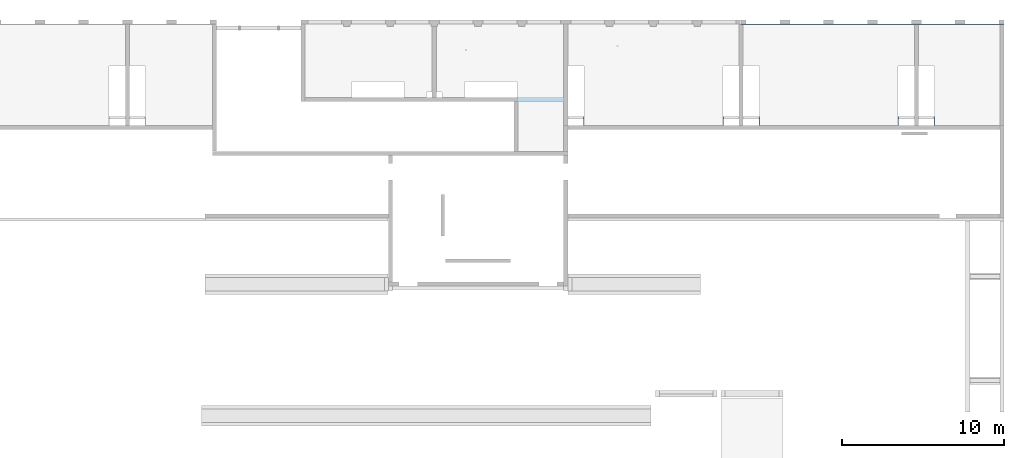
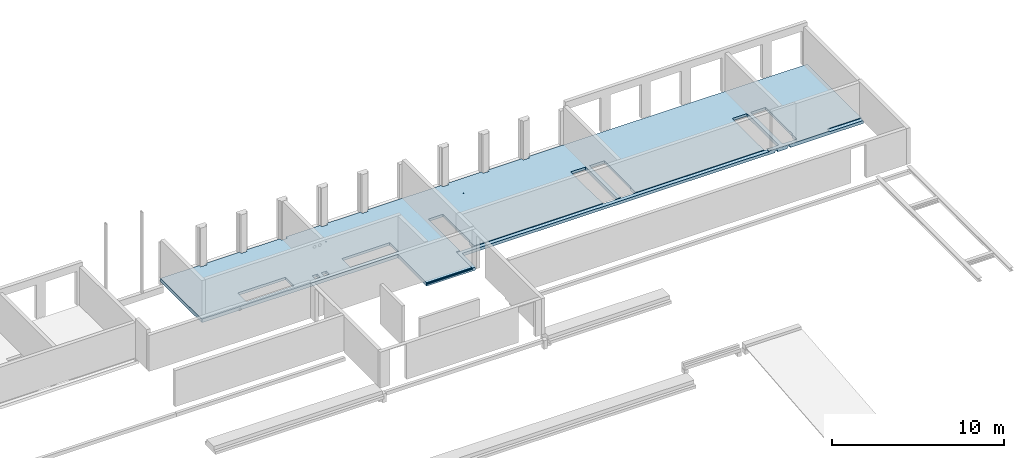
# One storey, part 17 of 18: 1 slab.
"""IFC2X3 building model written with IfcOpenShell, lengths in millimetres."""

from ifc_helpers import new_model, entity, si_unit, converted_unit, derived_unit, direction, frame, origin, place, context, subcontext, project, spatial, faceted_brep, element, save


model = new_model("IFC2X3")

# Units and contexts
model_context = context("Model", 3, precision=0.01, world=origin(), true_north=direction((6.12303176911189e-17, 1.0)))
body_context = subcontext(model_context, "Body", "Model", "MODEL_VIEW")
ifc_project = project(units=[si_unit("LENGTHUNIT", "METRE", prefix="MILLI"), si_unit("AREAUNIT", "SQUARE_METRE"), si_unit("VOLUMEUNIT", "CUBIC_METRE"), converted_unit("PLANEANGLEUNIT", "DEGREE", entity("IfcRatioMeasure", 0.0174532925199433), si_unit("PLANEANGLEUNIT", "RADIAN"), dimensions=[0, 0, 0, 0, 0, 0, 0]), si_unit("MASSUNIT", "GRAM", prefix="KILO"), derived_unit("MASSDENSITYUNIT", [(si_unit("MASSUNIT", "GRAM", prefix="KILO"), 1), (si_unit("LENGTHUNIT", "METRE"), -3)]), si_unit("TIMEUNIT", "SECOND"), si_unit("FREQUENCYUNIT", "HERTZ"), si_unit("THERMODYNAMICTEMPERATUREUNIT", "DEGREE_CELSIUS"), derived_unit("THERMALTRANSMITTANCEUNIT", [(si_unit("MASSUNIT", "GRAM", prefix="KILO"), 1), (si_unit("THERMODYNAMICTEMPERATUREUNIT", "KELVIN"), -1), (si_unit("TIMEUNIT", "SECOND"), -3)]), derived_unit("VOLUMETRICFLOWRATEUNIT", [(si_unit("LENGTHUNIT", "METRE"), 3), (si_unit("TIMEUNIT", "SECOND"), -1)]), si_unit("ELECTRICCURRENTUNIT", "AMPERE"), si_unit("ELECTRICVOLTAGEUNIT", "VOLT"), si_unit("POWERUNIT", "WATT"), si_unit("FORCEUNIT", "NEWTON", prefix="KILO"), si_unit("ILLUMINANCEUNIT", "LUX"), si_unit("LUMINOUSFLUXUNIT", "LUMEN"), si_unit("LUMINOUSINTENSITYUNIT", "CANDELA"), derived_unit("USERDEFINED", [(si_unit("MASSUNIT", "GRAM", prefix="KILO"), -1), (si_unit("LENGTHUNIT", "METRE"), -2), (si_unit("TIMEUNIT", "SECOND"), 3), (si_unit("LUMINOUSFLUXUNIT", "LUMEN"), 1)]), derived_unit("LINEARVELOCITYUNIT", [(si_unit("LENGTHUNIT", "METRE"), 1), (si_unit("TIMEUNIT", "SECOND"), -1)]), si_unit("PRESSUREUNIT", "PASCAL"), derived_unit("USERDEFINED", [(si_unit("LENGTHUNIT", "METRE"), -2), (si_unit("MASSUNIT", "GRAM", prefix="KILO"), 1), (si_unit("TIMEUNIT", "SECOND"), -2)])], contexts=[model_context])

# Site, building, storey
site_placement = place(None, origin())
site = spatial("IfcSite", under=ifc_project, at=site_placement, Name="Default", CompositionType="ELEMENT")
building_placement = place(site_placement, origin())
building = spatial("IfcBuilding", under=site, at=building_placement, Name="niet gebruiken", CompositionType="ELEMENT")
storey_placement = place(building_placement, frame((0.0, 0.0, 3690.0)))
storey = spatial("IfcBuildingStorey", under=building, at=storey_placement, Name="01 eerste verdieping", CompositionType="ELEMENT", Elevation=3690.00000000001)

# Slab
slab_placement = place(storey_placement, origin())
element("IfcSlab", 1, at=slab_placement, inside=storey, Name="Floor:NLRS_23.21_FL_breedplaat d=70/250_schil apart_gen", ObjectType="Floor:NLRS_23.21_FL_breedplaat d=70/250_schil apart_gen", PredefinedType="FLOOR", context=body_context, shape_type="Brep", body=[
    faceted_brep([(94705.0, 52846.0, -270.0), (94705.0, 53006.0, -270.0), (97095.0, 53006.0, -270.0), (94205.0, 49476.0, -270.0), (94295.0, 52846.0, -270.0), (97095.0, 48456.0, -270.0), (94205.0, 48476.0, -270.0), (94205.0, 48456.0, -270.0), (92005.0, 52846.0, -270.0), (91087.4999999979, 51406.0, -270.0), (91082.8124999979, 51397.8810118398, -270.0), (91078.1249999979, 51389.7620236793, -270.0), (91073.4374999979, 51381.6430355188, -270.0), (91068.7499999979, 51373.5240473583, -270.0), (91005.0, 49476.0, -270.0), (91059.3749999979, 51373.5240473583, -270.0), (91050.0, 51373.5240473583, -270.0), (91040.6249999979, 51373.5240473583, -270.0), (91031.2499999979, 51373.5240473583, -270.0), (89575.0, 48826.0, -270.0), (91005.0, 48476.0, -270.0), (89575.0, 48476.0, -270.0), (91005.0, 48456.0, -270.0), (89575.0, 48456.0, -270.0), (91025.5871936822, 51383.3323156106, -270.0), (91019.9243873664, 51393.1405838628, -270.0), (91016.2121936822, 51399.5702919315, -270.0), (91012.4999999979, 51406.0, -270.0), (89225.0, 48826.0, -270.0), (89205.0, 48826.0, -270.0), (89205.0, 52846.0, -270.0), (89305.0, 52846.0, -270.0), (91017.1874999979, 51414.1189881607, -270.0), (91021.8749999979, 51422.2379763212, -270.0), (91026.5624999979, 51430.3569644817, -270.0), (91031.2499999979, 51438.4759526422, -270.0), (91595.0, 52846.0, -270.0), (91595.0, 53006.0, -270.0), (89305.0, 53006.0, -270.0), (91068.7499999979, 51438.4759526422, -270.0), (91059.3749999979, 51438.4759526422, -270.0), (91050.0, 51438.4759526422, -270.0), (91040.6249999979, 51438.4759526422, -270.0), (91083.7878062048, 51412.4297082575, -270.0), (91080.0756124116, 51418.8594165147, -270.0), (91074.4128062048, 51428.6676845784, -270.0), (94295.0, 53006.0, -270.0), (92005.0, 53006.0, -270.0), (109125.0, 47326.0, -270.0), (109125.0, 50426.0, -270.0), (108125.0, 50426.0, -270.0), (108105.0, 50426.0, -270.0), (108105.0, 52986.0, -270.0), (118695.0, 52986.0, -270.0), (118695.0, 50426.0, -270.0), (118675.0, 50426.0, -270.0), (117675.0, 50426.0, -270.0), (117675.0, 47326.0, -270.0), (117675.0, 46726.0, -270.0), (109125.0, 46726.0, -270.0), (87225.0, 48456.0, -270.0), (87225.0, 48476.0, -270.0), (87225.0, 49476.0, -270.0), (84025.0, 49476.0, -270.0), (84025.0, 48476.0, -270.0), (84025.0, 48456.0, -270.0), (81130.0, 48456.0, -270.0), (81130.0, 53006.0, -270.0), (83495.0, 53006.0, -270.0), (83495.0, 52846.0, -270.0), (83905.0, 52846.0, -270.0), (83905.0, 53006.0, -270.0), (86195.0, 53006.0, -270.0), (86195.0, 52846.0, -270.0), (86605.0, 52846.0, -270.0), (86605.0, 53006.0, -270.0), (88895.0, 53006.0, -270.0), (88895.0, 52846.0, -270.0), (88995.0, 52846.0, -270.0), (88995.0, 48826.0, -270.0), (88975.0, 48826.0, -270.0), (88625.0, 48826.0, -270.0), (88625.0, 48476.0, -270.0), (88625.0, 48456.0, -270.0), (94255.0, 45136.0, -270.0), (94255.0, 48246.0, -270.0), (97095.0, 48246.0, -270.0), (97095.0, 45136.0, -270.0), (100418.749999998, 51623.5240473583, -270.0), (106875.0, 50426.0, -270.0), (106875.0, 47326.0, -270.0), (102805.0, 52845.5786066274, -270.0), (102395.0, 52845.5786066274, -270.0), (100423.437499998, 51631.6430355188, -270.0), (98325.0, 47326.0, -270.0), (98325.0, 50426.0, -270.0), (100409.374999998, 51623.5240473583, -270.0), (100428.124999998, 51639.7620236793, -270.0), (100432.812499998, 51647.8810118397, -270.0), (100437.499999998, 51656.0, -270.0), (100433.787806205, 51662.4297082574, -270.0), (100430.075612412, 51668.8594165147, -270.0), (100424.412806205, 51678.6676845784, -270.0), (100418.749999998, 51688.4759526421, -270.0), (100105.0, 52845.5786066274, -270.0), (100409.374999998, 51688.4759526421, -270.0), (100400.0, 51688.4759526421, -270.0), (100390.624999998, 51688.4759526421, -270.0), (100381.249999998, 51688.4759526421, -270.0), (99695.0, 52845.5786066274, -270.0), (100376.562499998, 51680.3569644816, -270.0), (100371.874999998, 51672.2379763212, -270.0), (100367.187499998, 51664.1189881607, -270.0), (100362.499999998, 51656.0, -270.0), (100366.212193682, 51649.5702919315, -270.0), (100369.924387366, 51643.1405838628, -270.0), (100375.587193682, 51633.3323156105, -270.0), (100381.249999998, 51623.5240473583, -270.0), (100390.624999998, 51623.5240473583, -270.0), (100400.0, 51623.5240473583, -270.0), (97305.0, 53006.0, -270.0), (99695.0, 52846.0, -270.0), (102395.0, 52846.0, -270.0), (100105.0, 52846.0, -270.0), (102395.0, 53005.5786066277, -270.0), (100105.0, 53005.5786066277, -270.0), (105095.0, 52845.5786066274, -270.0), (102805.0, 52846.0, -270.0), (105095.0, 52846.0, -270.0), (102805.0, 53005.5786066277, -270.0), (105095.0, 53005.5786066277, -270.0), (105505.0, 52845.5786066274, -270.0), (107895.0, 53005.5786066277, -270.0), (105505.0, 52846.0, -270.0), (105505.0, 53005.5786066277, -270.0), (107875.0, 50426.0, -270.0), (107895.0, 50426.0, -270.0), (98325.0, 46726.0, -270.0), (106875.0, 46726.0, -270.0), (97325.0, 50426.0, -270.0), (97305.0, 50426.0, -270.0), (99695.0, 53006.0, -270.0), (119925.0, 47326.0, -270.0), (119925.0, 50426.0, -270.0), (118925.0, 50426.0, -270.0), (118905.0, 50426.0, -270.0), (118905.0, 52986.0, -270.0), (123970.0, 52986.0, -270.0), (123970.0, 46726.0, -270.0), (119925.0, 46726.0, -270.0), (107875.0, 46746.0, -130.0), (106905.0, 46746.0, -130.0), (98295.0, 46746.0, -130.0), (97325.0, 46746.0, -130.0), (97075.0, 46746.0, -130.0), (97075.0, 44906.0, -130.0), (97325.0, 44906.0, -130.0), (97325.0, 45156.0, -130.0), (97325.0, 46056.0, -130.0), (97325.0, 46496.0, -130.0), (98325.0, 46496.0, -130.0), (117880.0, 46496.0, -130.0), (117880.0, 46746.0, -130.0), (117705.0, 46746.0, -130.0), (109095.0, 46746.0, -130.0), (108125.0, 46746.0, -130.0), (121930.0, 46746.0, -130.0), (121930.0, 46496.0, -130.0), (124200.0, 46496.0, -130.0), (124200.0, 46746.0, -130.0), (107875.0, 46746.0, -90.0), (108125.0, 46746.0, -90.0), (109095.0, 46746.0, -90.0), (117705.0, 46746.0, -90.0), (98295.0, 46746.0, -90.0), (106905.0, 46746.0, -90.0), (97075.0, 46746.0, -90.0), (97325.0, 46746.0, -90.0), (121930.0, 46746.0, -90.0), (124200.0, 46746.0, -90.0), (118461.602540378, 46496.0, -340.0), (118471.592582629, 46496.0, -315.881904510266), (118471.592582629, 46746.0, -315.881904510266), (118461.602540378, 46746.0, -340.0), (118475.0, 46496.0, -290.0), (118475.0, 46746.0, -290.0), (119311.602540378, 46496.0, -340.0), (119321.592582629, 46496.0, -315.881904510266), (119321.592582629, 46746.0, -315.881904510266), (119311.602540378, 46746.0, -340.0), (119325.0, 46496.0, -290.0), (119325.0, 46746.0, -290.0), (124200.0, 53005.5786066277, -340.0), (123970.0, 52986.0, -340.0), (118905.0, 52986.0, -340.0), (123970.0, 46726.0, -340.0), (118695.0, 52986.0, -340.0), (107895.0, 53005.5786066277, -340.0), (124200.0, 46496.0, -340.0), (123950.0, 46496.0, -340.0), (119925.0, 46726.0, -340.0), (119895.0, 46746.0, -340.0), (119925.0, 47326.0, -340.0), (119895.0, 47326.0, -340.0), (118905.0, 50426.0, -340.0), (118695.0, 50426.0, -340.0), (118675.0, 46746.0, -340.0), (118925.0, 46746.0, -340.0), (118925.0, 50426.0, -340.0), (119138.397459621, 46496.0, -340.0), (119138.397459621, 46746.0, -340.0), (118675.0, 50426.0, -340.0), (108105.0, 52986.0, -340.0), (107895.0, 50426.0, -340.0), (108105.0, 50426.0, -340.0), (107875.0, 46746.0, -340.0), (108125.0, 46746.0, -340.0), (108125.0, 50426.0, -340.0), (109125.0, 46726.0, -340.0), (109095.0, 46746.0, -340.0), (109125.0, 47326.0, -340.0), (109095.0, 47326.0, -340.0), (106875.0, 46726.0, -340.0), (98325.0, 46496.0, -340.0), (118288.397459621, 46496.0, -340.0), (117675.0, 46726.0, -340.0), (117705.0, 46746.0, -340.0), (117705.0, 47146.0, -340.0), (117675.0, 47326.0, -340.0), (117705.0, 47326.0, -340.0), (118288.397459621, 46746.0, -340.0), (98325.0, 46726.0, -340.0), (98295.0, 46746.0, -340.0), (97325.0, 46496.0, -340.0), (97325.0, 46746.0, -340.0), (97095.0, 45136.0, -340.0), (97325.0, 44906.0, -340.0), (97075.0, 44906.0, -340.0), (94255.0, 45136.0, -340.0), (94025.0, 44906.0, -340.0), (94025.0, 45156.0, -340.0), (94025.0, 48226.0, -340.0), (94255.0, 48246.0, -340.0), (94205.0, 48456.0, -340.0), (94205.0, 48476.0, -340.0), (91005.0, 48476.0, -340.0), (91005.0, 48456.0, -340.0), (89575.0, 48456.0, -340.0), (88625.0, 48456.0, -340.0), (87225.0, 48456.0, -340.0), (81150.0, 48226.0, -340.0), (84025.0, 48456.0, -340.0), (81130.0, 48456.0, -340.0), (80900.0, 48226.0, -340.0), (80900.0, 53006.0, -340.0), (81130.0, 53006.0, -340.0), (84025.0, 48476.0, -340.0), (87225.0, 48476.0, -340.0), (89225.0, 48476.0, -340.0), (88975.0, 48476.0, -340.0), (88625.0, 48476.0, -340.0), (88995.0, 48826.0, -340.0), (88975.0, 48826.0, -340.0), (89205.0, 48826.0, -340.0), (89205.0, 52846.0, -340.0), (88995.0, 52846.0, -340.0), (89225.0, 48826.0, -340.0), (89575.0, 48476.0, -340.0), (97095.0, 48456.0, -340.0), (97095.0, 48246.0, -340.0), (97325.0, 47146.0, -340.0), (97325.0, 50426.0, -340.0), (97305.0, 50426.0, -340.0), (97095.0, 53006.0, -340.0), (97305.0, 53006.0, -340.0), (98295.0, 47146.0, -340.0), (98325.0, 47326.0, -340.0), (98295.0, 47326.0, -340.0), (106905.0, 46746.0, -340.0), (106875.0, 47326.0, -340.0), (106905.0, 47326.0, -340.0), (107875.0, 50426.0, -340.0), (117880.0, 46496.0, -90.0), (121930.0, 46496.0, -90.0), (119895.0, 46746.0, -90.0), (118925.0, 46746.0, -90.0), (118675.0, 46746.0, -90.0), (119925.0, 47326.0, -90.0), (117880.0, 46746.0, -90.0), (117675.0, 47326.0, -90.0), (117705.0, 47146.0, -90.0), (119925.0, 50426.0, -90.0), (118925.0, 50426.0, -90.0), (119895.0, 47326.0, -90.0), (109095.0, 47326.0, -90.0), (109125.0, 47326.0, -90.0), (108125.0, 50426.0, -90.0), (107875.0, 50426.0, -90.0), (117675.0, 50426.0, -90.0), (117705.0, 47326.0, -90.0), (98325.0, 47326.0, -90.0), (106875.0, 47326.0, -90.0), (106905.0, 47326.0, -90.0), (97325.0, 50426.0, -90.0), (98325.0, 50426.0, -90.0), (99695.0, 52845.5786066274, -90.0), (100418.749999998, 51623.5240473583, -90.0), (106875.0, 50426.0, -90.0), (105505.0, 52845.5786066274, -90.0), (98295.0, 47146.0, -90.0), (98295.0, 47326.0, -90.0), (94025.0, 45156.0, -90.0), (97075.0, 44906.0, -90.0), (97075.0, 45156.0, -90.0), (97325.0, 47146.0, -90.0), (94205.0, 48476.0, -90.0), (94025.0, 48226.0, -90.0), (94025.0, 44906.0, -90.0), (81150.0, 48226.0, -90.0), (87225.0, 48476.0, -90.0), (84025.0, 48476.0, -90.0), (91005.0, 48476.0, -90.0), (89575.0, 48476.0, -90.0), (80900.0, 53006.0, -90.0), (80900.0, 48226.0, -90.0), (84025.0, 49476.0, -90.0), (89575.0, 48826.0, -90.0), (89225.0, 48476.0, -90.0), (91005.0, 49476.0, -90.0), (94205.0, 49476.0, -90.0), (91068.7499999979, 51373.5240473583, -90.0), (89225.0, 48826.0, -90.0), (91012.4999999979, 51406.0, -90.0), (91031.2499999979, 51373.5240473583, -90.0), (88975.0, 48476.0, -90.0), (88625.0, 48476.0, -90.0), (88625.0, 48826.0, -90.0), (87225.0, 49476.0, -90.0), (88975.0, 48826.0, -90.0), (88895.0, 52846.0, -90.0), (86195.0, 52846.0, -90.0), (94705.0, 52846.0, -90.0), (105505.0, 52846.0, -90.0), (109125.0, 50426.0, -90.0), (105505.0, 53005.5786066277, -90.0), (105095.0, 52845.5786066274, -90.0), (102805.0, 52845.5786066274, -90.0), (124200.0, 53005.5786066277, -90.0), (118675.0, 50426.0, -90.0), (100105.0, 52845.5786066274, -90.0), (102395.0, 52845.5786066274, -90.0), (102395.0, 52846.0, -90.0), (100437.499999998, 51656.0, -90.0), (100433.787806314, 51649.570291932, -90.0), (100409.374999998, 51623.5240473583, -90.0), (100381.249999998, 51688.4759526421, -90.0), (100390.624999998, 51688.4759526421, -90.0), (100362.499999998, 51656.0, -90.0), (100366.212193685, 51662.4297080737, -90.0), (100418.749999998, 51688.4759526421, -90.0), (100423.437499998, 51680.3569644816, -90.0), (100381.249999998, 51623.5240473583, -90.0), (100376.562499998, 51631.6430355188, -90.0), (102805.0, 52846.0, -90.0), (105095.0, 52846.0, -90.0), (102805.0, 53005.5786066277, -90.0), (105095.0, 53005.5786066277, -90.0), (100105.0, 52846.0, -90.0), (102395.0, 53005.5786066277, -90.0), (100105.0, 53005.5786066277, -90.0), (99695.0, 52846.0, -90.0), (91087.4999999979, 51406.0, -90.0), (91083.7878063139, 51399.5702919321, -90.0), (94295.0, 52846.0, -90.0), (92005.0, 52846.0, -90.0), (91068.7499999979, 51438.4759526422, -90.0), (91073.4374999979, 51430.3569644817, -90.0), (94295.0, 53006.0, -90.0), (99695.0, 53006.0, -90.0), (91595.0, 52846.0, -90.0), (89305.0, 52846.0, -90.0), (91031.2499999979, 51438.4759526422, -90.0), (91040.6249999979, 51438.4759526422, -90.0), (86605.0, 52846.0, -90.0), (88895.0, 53006.0, -90.0), (91016.2121936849, 51412.4297080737, -90.0), (91595.0, 53006.0, -90.0), (91059.3749999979, 51373.5240473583, -90.0), (92005.0, 53006.0, -90.0), (89305.0, 53006.0, -90.0), (86605.0, 53006.0, -90.0), (83905.0, 52846.0, -90.0), (86195.0, 53006.0, -90.0), (83495.0, 52846.0, -90.0), (83495.0, 53006.0, -90.0), (83905.0, 53006.0, -90.0), (94705.0, 53006.0, -90.0), (91026.5624999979, 51381.6430355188, -90.0), (100428.124999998, 51639.7620236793, -90.0), (100423.437499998, 51631.6430355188, -90.0), (100400.0, 51623.5240473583, -90.0), (100390.624999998, 51623.5240473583, -90.0), (100400.0, 51688.4759526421, -90.0), (100409.374999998, 51688.4759526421, -90.0), (100369.924387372, 51668.8594161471, -90.0), (100375.587193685, 51678.6676843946, -90.0), (100428.124999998, 51672.2379763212, -90.0), (100432.812499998, 51664.1189881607, -90.0), (100371.874999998, 51639.7620236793, -90.0), (100367.187499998, 51647.8810118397, -90.0), (91078.1249999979, 51389.7620236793, -90.0), (91073.4374999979, 51381.6430355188, -90.0), (91078.1249999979, 51422.2379763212, -90.0), (91082.8124999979, 51414.1189881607, -90.0), (91050.0, 51438.4759526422, -90.0), (91059.3749999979, 51438.4759526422, -90.0), (91019.9243873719, 51418.8594161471, -90.0), (91025.5871936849, 51428.6676843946, -90.0), (91050.0, 51373.5240473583, -90.0), (91040.6249999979, 51373.5240473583, -90.0), (91021.8749999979, 51389.7620236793, -90.0), (91017.1874999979, 51397.8810118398, -90.0), (97325.0, 44906.0, -220.0), (97095.0, 44906.0, -220.0), (97095.0, 44906.0, -150.0), (94075.0, 44906.0, -150.0), (94025.0, 44906.0, -150.0), (94075.0, 44906.0, -220.0), (97075.0, 44906.0, -220.0), (118278.407417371, 46496.0, -315.881904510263), (118275.0, 46496.0, -290.0), (118286.639014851, 46496.0, -269.84063492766), (118300.0, 46496.0, -246.698729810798), (118312.5, 46496.0, -225.048094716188), (118325.0, 46496.0, -203.397459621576), (118350.0, 46496.0, -203.397459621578), (118375.0, 46496.0, -203.397459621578), (118400.0, 46496.0, -203.397459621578), (118425.0, 46496.0, -203.397459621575), (118437.5, 46496.0, -225.048094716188), (118450.0, 46496.0, -246.698729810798), (118463.360984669, 46496.0, -269.840634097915), (119128.407417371, 46496.0, -315.881904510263), (119125.0, 46496.0, -290.0), (119136.639014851, 46496.0, -269.84063492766), (119150.0, 46496.0, -246.698729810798), (119162.5, 46496.0, -225.048094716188), (119175.0, 46496.0, -203.397459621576), (119200.0, 46496.0, -203.397459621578), (119225.0, 46496.0, -203.397459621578), (119250.0, 46496.0, -203.397459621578), (119275.0, 46496.0, -203.397459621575), (119287.5, 46496.0, -225.048094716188), (119300.0, 46496.0, -246.698729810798), (119313.360984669, 46496.0, -269.840634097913), (118462.5, 46746.0, -268.349364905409), (118450.0, 46746.0, -246.698729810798), (118437.5, 46746.0, -225.048094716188), (118425.0, 46746.0, -203.397459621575), (118400.0, 46746.0, -203.397459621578), (118375.0, 46746.0, -203.397459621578), (118350.0, 46746.0, -203.397459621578), (118325.0, 46746.0, -203.397459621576), (118312.5, 46746.0, -225.048094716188), (118300.0, 46746.0, -246.698729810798), (118287.5, 46746.0, -268.349364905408), (118275.0, 46746.0, -290.0), (118278.407417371, 46746.0, -315.881904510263), (119312.5, 46746.0, -268.349364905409), (119300.0, 46746.0, -246.698729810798), (119287.5, 46746.0, -225.048094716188), (119275.0, 46746.0, -203.397459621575), (119250.0, 46746.0, -203.397459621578), (119225.0, 46746.0, -203.397459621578), (119200.0, 46746.0, -203.397459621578), (119175.0, 46746.0, -203.397459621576), (119162.5, 46746.0, -225.048094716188), (119150.0, 46746.0, -246.698729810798), (119137.5, 46746.0, -268.349364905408), (119125.0, 46746.0, -290.0), (119128.407417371, 46746.0, -315.881904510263), (97095.0, 44926.0, -150.0), (97095.0, 44926.0, -220.0), (94075.0, 44926.0, -220.0), (94075.0, 44926.0, -150.0)], [[[0, 1, 2]], [[3, 0, 2]], [[4, 0, 3]], [[3, 2, 5]], [[6, 3, 5]], [[6, 5, 7]], [[4, 3, 8]], [[3, 9, 8]], [[3, 10, 9]], [[3, 11, 10]], [[3, 12, 11]], [[3, 13, 12]], [[3, 14, 13]], [[14, 15, 13]], [[14, 16, 15]], [[14, 17, 16]], [[14, 18, 17]], [[19, 18, 14]], [[20, 19, 14]], [[21, 19, 20]], [[20, 22, 21]], [[22, 23, 21]], [[19, 24, 18]], [[19, 25, 24]], [[19, 26, 25]], [[19, 27, 26]], [[28, 27, 19]], [[28, 29, 27]], [[30, 27, 29]], [[30, 31, 27]], [[31, 32, 27]], [[31, 33, 32]], [[31, 34, 33]], [[31, 35, 34]], [[31, 36, 35]], [[37, 36, 31]], [[37, 31, 38]], [[39, 36, 8]], [[36, 39, 40]], [[36, 40, 41]], [[36, 41, 42]], [[36, 42, 35]], [[8, 9, 43]], [[8, 43, 44]], [[8, 44, 45]], [[8, 45, 39]], [[8, 46, 4]], [[46, 8, 47]], [[48, 49, 50, 51, 52, 53, 54, 55, 56, 57, 58, 59]], [[60, 61, 62, 63, 64, 65, 66, 67, 68, 69, 70, 71, 72, 73, 74, 75, 76, 77, 78, 79, 80, 81, 82, 83]], [[84, 85, 86, 87]], [[0, 1, 2]], [[3, 0, 2]], [[4, 0, 3]], [[3, 2, 5]], [[6, 3, 5]], [[6, 5, 7]], [[4, 3, 8]], [[3, 9, 8]], [[3, 10, 9]], [[3, 11, 10]], [[3, 12, 11]], [[3, 13, 12]], [[3, 14, 13]], [[14, 15, 13]], [[14, 16, 15]], [[14, 17, 16]], [[14, 18, 17]], [[19, 18, 14]], [[20, 19, 14]], [[21, 19, 20]], [[20, 22, 21]], [[22, 23, 21]], [[19, 24, 18]], [[19, 25, 24]], [[19, 26, 25]], [[19, 27, 26]], [[28, 27, 19]], [[28, 29, 27]], [[30, 27, 29]], [[30, 31, 27]], [[31, 32, 27]], [[31, 33, 32]], [[31, 34, 33]], [[31, 35, 34]], [[31, 36, 35]], [[37, 36, 31]], [[37, 31, 38]], [[39, 36, 8]], [[36, 39, 40]], [[36, 40, 41]], [[36, 41, 42]], [[36, 42, 35]], [[8, 9, 43]], [[8, 43, 44]], [[8, 44, 45]], [[8, 45, 39]], [[8, 46, 4]], [[46, 8, 47]], [[48, 56, 57]], [[57, 59, 48]], [[56, 48, 49]], [[49, 52, 56]], [[52, 49, 50]], [[51, 52, 50]], [[56, 52, 53]], [[53, 55, 56]], [[53, 54, 55]], [[59, 57, 58]], [[60, 82, 83]], [[82, 60, 61]], [[81, 82, 61]], [[62, 81, 61]], [[62, 77, 81]], [[74, 77, 62]], [[62, 73, 74]], [[73, 62, 63]], [[63, 70, 73]], [[63, 69, 70]], [[63, 67, 69]], [[67, 63, 66]], [[66, 63, 64]], [[65, 66, 64]], [[69, 67, 68]], [[72, 73, 70]], [[70, 71, 72]], [[75, 77, 74]], [[76, 77, 75]], [[81, 77, 80]], [[77, 78, 80]], [[78, 79, 80]], [[84, 86, 87]], [[86, 84, 85]], [[88, 89, 90]], [[89, 88, 91]], [[91, 88, 92]], [[92, 88, 93]], [[88, 90, 94]], [[95, 88, 94]], [[95, 96, 88]], [[92, 93, 97]], [[92, 97, 98]], [[92, 98, 99]], [[92, 99, 100]], [[92, 100, 101]], [[92, 101, 102]], [[92, 102, 103]], [[92, 103, 104]], [[104, 103, 105]], [[104, 105, 106]], [[104, 106, 107]], [[104, 107, 108]], [[108, 109, 104]], [[109, 108, 110]], [[109, 110, 111]], [[109, 111, 112]], [[109, 112, 113]], [[113, 95, 109]], [[95, 113, 114]], [[95, 114, 115]], [[95, 115, 116]], [[95, 116, 117]], [[95, 117, 118]], [[95, 118, 119]], [[95, 119, 96]], [[95, 120, 109]], [[109, 120, 121]], [[122, 92, 104]], [[123, 122, 104]], [[123, 124, 122]], [[124, 123, 125]], [[91, 126, 89]], [[126, 91, 127]], [[128, 126, 127]], [[127, 129, 128]], [[128, 129, 130]], [[89, 126, 131]], [[132, 89, 131]], [[131, 133, 132]], [[133, 134, 132]], [[89, 132, 135]], [[136, 135, 132]], [[94, 90, 137]], [[90, 138, 137]], [[120, 95, 139]], [[120, 139, 140]], [[120, 141, 121]], [[142, 143, 144, 145, 146, 147, 148, 149]], [[150, 151, 152, 153, 154, 155, 156, 157, 158, 159, 160, 161, 162, 163, 164, 165]], [[166, 167, 168, 169]], [[170, 150, 165, 171]], [[172, 164, 163, 173]], [[174, 152, 151, 175]], [[176, 154, 153, 177]], [[178, 166, 169, 179]], [[180, 181, 182, 183]], [[184, 185, 182, 181]], [[186, 187, 188, 189]], [[190, 191, 188, 187]], [[192, 193, 194]], [[193, 192, 195]], [[192, 194, 196]], [[197, 192, 196]], [[195, 192, 198]], [[199, 195, 198]], [[200, 195, 199]], [[200, 199, 186]], [[201, 200, 186]], [[201, 186, 189]], [[202, 200, 201]], [[203, 202, 201]], [[194, 204, 196]], [[205, 196, 204]], [[204, 206, 205]], [[207, 206, 204]], [[207, 204, 208]], [[206, 207, 180]], [[207, 209, 180]], [[207, 210, 209]], [[206, 180, 183]], [[211, 205, 206]], [[196, 212, 197]], [[212, 213, 197]], [[214, 213, 212]], [[213, 214, 215]], [[214, 216, 215]], [[216, 214, 217]], [[215, 216, 218]], [[216, 219, 218]], [[220, 218, 219]], [[219, 221, 220]], [[215, 218, 222]], [[222, 218, 223]], [[218, 224, 223]], [[218, 225, 224]], [[226, 224, 225]], [[225, 227, 226]], [[225, 228, 227]], [[228, 229, 227]], [[226, 230, 224]], [[223, 231, 222]], [[223, 232, 231]], [[233, 232, 223]], [[233, 234, 232]], [[234, 233, 235]], [[233, 236, 235]], [[237, 235, 236]], [[238, 235, 237]], [[237, 239, 238]], [[240, 238, 239]], [[240, 241, 238]], [[241, 242, 238]], [[243, 242, 241]], [[244, 243, 241]], [[244, 241, 245]], [[246, 245, 241]], [[241, 247, 246]], [[241, 248, 247]], [[249, 248, 241]], [[249, 241, 250]], [[249, 250, 251]], [[251, 250, 252]], [[252, 250, 253]], [[252, 253, 254]], [[255, 252, 254]], [[256, 249, 251]], [[249, 256, 257]], [[247, 248, 258]], [[259, 258, 248]], [[248, 260, 259]], [[259, 261, 258]], [[261, 259, 262]], [[263, 258, 261]], [[264, 263, 261]], [[265, 264, 261]], [[263, 266, 258]], [[258, 267, 247]], [[268, 242, 243]], [[242, 268, 269]], [[269, 268, 270]], [[270, 268, 271]], [[272, 271, 268]], [[268, 273, 272]], [[274, 272, 273]], [[270, 234, 269]], [[234, 235, 269]], [[232, 275, 231]], [[231, 275, 276]], [[276, 275, 277]], [[278, 215, 222]], [[279, 278, 222]], [[279, 280, 278]], [[281, 213, 215]], [[282, 283, 284]], [[178, 284, 283]], [[285, 286, 282]], [[284, 285, 282]], [[287, 284, 178]], [[282, 286, 288]], [[172, 173, 289]], [[173, 290, 289]], [[287, 178, 291]], [[285, 292, 286]], [[287, 293, 284]], [[294, 172, 295]], [[170, 296, 297]], [[298, 295, 289]], [[296, 170, 171]], [[299, 289, 290]], [[300, 175, 301]], [[174, 175, 300]], [[175, 302, 301]], [[303, 304, 305]], [[301, 306, 300]], [[304, 300, 306]], [[301, 307, 306]], [[308, 307, 297]], [[295, 172, 289]], [[291, 178, 179]], [[309, 300, 310]], [[311, 312, 313]], [[311, 313, 176]], [[309, 174, 300]], [[177, 314, 176]], [[176, 314, 315]], [[316, 176, 315]], [[311, 317, 312]], [[318, 316, 319]], [[318, 319, 320]], [[316, 321, 322]], [[323, 324, 318]], [[311, 176, 316]], [[325, 318, 320]], [[326, 322, 321]], [[316, 322, 327]], [[328, 329, 330]], [[303, 329, 315]], [[331, 326, 332]], [[326, 321, 328]], [[333, 326, 328]], [[316, 315, 321]], [[315, 314, 303]], [[316, 334, 335]], [[336, 337, 319]], [[334, 327, 338]], [[316, 335, 319]], [[339, 336, 338]], [[331, 338, 327]], [[340, 325, 337]], [[332, 338, 331]], [[339, 337, 336]], [[319, 335, 336]], [[303, 341, 329]], [[316, 327, 334]], [[323, 318, 325]], [[297, 296, 342]], [[295, 298, 343]], [[344, 343, 298]], [[307, 345, 346]], [[347, 348, 292]], [[292, 348, 286]], [[349, 350, 351]], [[346, 306, 307]], [[292, 291, 347]], [[348, 347, 298]], [[306, 346, 350]], [[350, 352, 353]], [[304, 306, 354]], [[349, 355, 356]], [[305, 355, 349]], [[305, 357, 358]], [[350, 359, 360]], [[350, 349, 359]], [[305, 304, 357]], [[304, 361, 362]], [[345, 307, 308]], [[363, 345, 364]], [[342, 296, 344]], [[308, 297, 342]], [[347, 344, 298]], [[365, 364, 366]], [[367, 349, 351]], [[368, 367, 351]], [[369, 367, 368]], [[363, 364, 365]], [[346, 345, 363]], [[291, 179, 347]], [[370, 303, 305]], [[329, 371, 372]], [[303, 370, 341]], [[341, 373, 329]], [[374, 371, 329]], [[374, 375, 376]], [[373, 377, 374]], [[374, 329, 373]], [[370, 378, 341]], [[379, 375, 374]], [[332, 339, 338]], [[380, 339, 332]], [[379, 381, 382]], [[337, 339, 383]], [[383, 339, 384]], [[380, 332, 385]], [[379, 380, 381]], [[383, 340, 337]], [[379, 386, 380]], [[328, 330, 387]], [[374, 377, 388]], [[386, 389, 380]], [[384, 390, 383]], [[391, 340, 392]], [[325, 391, 393]], [[325, 340, 391]], [[323, 393, 394]], [[391, 392, 395]], [[323, 325, 393]], [[396, 341, 378]], [[326, 333, 397]], [[344, 296, 343]], [[350, 353, 398]], [[350, 398, 399]], [[350, 399, 306]], [[304, 354, 400]], [[304, 400, 401]], [[304, 401, 361]], [[349, 356, 402]], [[349, 402, 403]], [[349, 403, 359]], [[305, 358, 404]], [[305, 404, 405]], [[305, 405, 355]], [[350, 360, 406]], [[350, 406, 407]], [[350, 407, 352]], [[304, 362, 408]], [[304, 408, 409]], [[304, 409, 357]], [[329, 372, 410]], [[329, 410, 411]], [[329, 411, 330]], [[374, 376, 412]], [[374, 412, 413]], [[374, 413, 371]], [[379, 382, 414]], [[379, 414, 415]], [[379, 415, 375]], [[380, 385, 416]], [[380, 416, 417]], [[380, 417, 381]], [[328, 387, 418]], [[328, 418, 419]], [[328, 419, 333]], [[326, 397, 420]], [[326, 420, 421]], [[326, 421, 332]], [[236, 422, 423]], [[236, 423, 237]], [[423, 422, 424]], [[156, 424, 422]], [[156, 155, 424]], [[425, 424, 155]], [[312, 425, 155]], [[425, 312, 317]], [[426, 425, 317]], [[425, 426, 427]], [[239, 427, 426]], [[239, 237, 427]], [[428, 427, 237]], [[237, 423, 428]], [[240, 239, 426, 317, 311, 316, 241]], [[254, 253, 324, 323]], [[67, 255, 254, 323, 394, 68]], [[72, 71, 395, 392]], [[76, 75, 390, 384]], [[37, 38, 389, 386]], [[46, 47, 388, 377]], [[120, 274, 273, 2, 1, 396, 378, 141]], [[250, 241, 316, 318, 324, 253]], [[69, 68, 394, 393]], [[70, 69, 393, 391]], [[74, 73, 340, 383]], [[30, 264, 265, 78, 77, 339, 380, 31]], [[8, 36, 379, 374]], [[0, 4, 373, 341]], [[71, 70, 391, 395]], [[73, 72, 392, 340]], [[75, 74, 383, 390]], [[77, 76, 384, 339]], [[38, 31, 380, 389]], [[36, 37, 386, 379]], [[47, 8, 374, 388]], [[4, 46, 377, 373]], [[1, 0, 341, 396]], [[121, 141, 378, 370, 305, 109]], [[104, 109, 305, 349]], [[91, 92, 350, 346]], [[131, 126, 345, 308]], [[123, 104, 349, 367, 369, 125]], [[124, 125, 369, 368]], [[130, 129, 365, 366]], [[132, 134, 344, 347, 192, 197]], [[122, 124, 368, 351, 350, 92]], [[127, 91, 346, 363, 365, 129]], [[128, 130, 366, 364, 345, 126]], [[133, 131, 308, 342, 344, 134]], [[198, 192, 347, 179, 169, 168]], [[186, 199, 198, 168, 167, 283, 282, 161, 160, 159, 233, 223, 224, 429, 430, 431, 432, 433, 434, 435, 436, 437, 438, 439, 440, 441, 184, 181, 180, 209, 442, 443, 444, 445, 446, 447, 448, 449, 450, 451, 452, 453, 454, 190, 187]], [[422, 236, 233, 159, 158, 157, 156]], [[177, 153, 234, 270, 271, 139, 303, 314]], [[337, 325, 63, 62]], [[329, 328, 14, 3]], [[319, 337, 62, 61]], [[320, 319, 61, 257, 256, 64]], [[321, 315, 6, 244, 245, 20]], [[327, 322, 21, 267, 258]], [[82, 335, 334, 259, 260]], [[325, 320, 64, 63]], [[315, 329, 3, 6]], [[328, 321, 20, 14]], [[309, 310, 277, 275, 232, 152, 174]], [[153, 152, 232, 234]], [[151, 150, 215, 278]], [[165, 164, 219, 216]], [[286, 206, 183, 182, 185, 455, 456, 457, 458, 459, 460, 461, 462, 463, 464, 465, 466, 467, 230, 226, 163, 162, 288]], [[284, 201, 189, 188, 191, 468, 469, 470, 471, 472, 473, 474, 475, 476, 477, 478, 479, 480, 210, 207, 285]], [[170, 297, 135, 281, 215, 150]], [[302, 175, 151, 278, 280]], [[172, 294, 221, 219, 164]], [[296, 171, 165, 216, 217, 50]], [[286, 348, 55, 211, 206]], [[290, 173, 163, 226, 227, 229, 299]], [[284, 293, 203, 201]], [[292, 285, 207, 208, 144]], [[144, 143, 291, 292]], [[50, 49, 343, 296]], [[89, 135, 297, 307]], [[139, 95, 304, 303]], [[56, 55, 348, 298]], [[142, 202, 203, 293, 287]], [[48, 220, 221, 294, 295]], [[90, 301, 302, 280, 279]], [[94, 276, 277, 310, 300]], [[57, 289, 299, 229, 228]], [[142, 287, 291, 143]], [[48, 295, 343, 49]], [[89, 307, 301, 90]], [[94, 300, 304, 95]], [[56, 298, 289, 57]], [[52, 212, 196, 53]], [[146, 194, 193, 147]], [[51, 214, 212, 52]], [[51, 50, 217, 214]], [[54, 205, 211, 55]], [[140, 139, 271, 272]], [[136, 213, 281, 135]], [[145, 144, 208, 204]], [[59, 218, 220, 48]], [[58, 225, 218, 59]], [[138, 222, 231, 137]], [[148, 195, 200, 149]], [[53, 196, 205, 54]], [[57, 228, 225, 58]], [[78, 265, 261, 79]], [[80, 79, 261, 262]], [[28, 266, 263, 29]], [[82, 260, 248, 83]], [[83, 248, 249, 60]], [[65, 251, 252, 66]], [[22, 246, 247, 23]], [[5, 268, 243, 7]], [[61, 60, 249, 257]], [[64, 256, 251, 65]], [[66, 252, 255, 67]], [[29, 263, 264, 30]], [[21, 23, 247, 267]], [[20, 245, 246, 22]], [[7, 243, 244, 6]], [[2, 273, 268, 5]], [[86, 269, 235, 87]], [[424, 481, 482, 423]], [[87, 235, 238, 84]], [[84, 238, 242, 85]], [[85, 242, 269, 86]], [[140, 272, 274, 120]], [[137, 231, 276, 94]], [[132, 197, 213, 136]], [[90, 279, 222, 138]], [[145, 204, 194, 146]], [[149, 200, 202, 142]], [[148, 147, 193, 195]], [[326, 331, 28, 19]], [[80, 338, 336, 81]], [[322, 326, 19, 21]], [[331, 327, 258, 266, 28]], [[313, 312, 155, 154, 176]], [[283, 167, 166, 178]], [[282, 288, 162, 161]], [[428, 423, 482, 483, 427]], [[484, 481, 424, 425]], [[425, 427, 483, 484]], [[484, 483, 482, 481]], [[81, 336, 335, 82]], [[80, 262, 259, 334, 338]], [[430, 429, 467, 466]], [[224, 230, 467, 429]], [[439, 438, 458, 457, 456, 455, 185, 184, 441, 440]], [[464, 463, 462, 434, 433, 432, 431, 430, 466, 465]], [[459, 458, 438, 437, 436, 435, 434, 462, 461, 460]], [[472, 471, 451, 450, 449, 448, 447, 475, 474, 473]], [[443, 442, 480, 479]], [[209, 210, 480, 442]], [[452, 451, 471, 470, 469, 468, 191, 190, 454, 453]], [[477, 476, 475, 447, 446, 445, 444, 443, 479, 478]], [[116, 115, 114, 113, 357, 409, 408, 362, 361, 117]], [[400, 354, 306, 88, 96, 119, 118, 117, 361, 401]], [[88, 306, 399, 398, 353, 352, 99, 98, 97, 93]], [[407, 406, 360, 359, 103, 102, 101, 100, 99, 352]], [[403, 402, 356, 355, 108, 107, 106, 105, 103, 359]], [[108, 355, 405, 404, 358, 357, 113, 112, 111, 110]], [[24, 25, 26, 27, 332, 421, 420, 397, 333, 18]], [[418, 387, 330, 13, 15, 16, 17, 18, 333, 419]], [[13, 330, 411, 410, 372, 371, 9, 10, 11, 12]], [[413, 412, 376, 375, 39, 45, 44, 43, 9, 371]], [[415, 414, 382, 381, 35, 42, 41, 40, 39, 375]], [[35, 381, 417, 416, 385, 332, 27, 32, 33, 34]]]),
])

save(model, "model.ifc")
